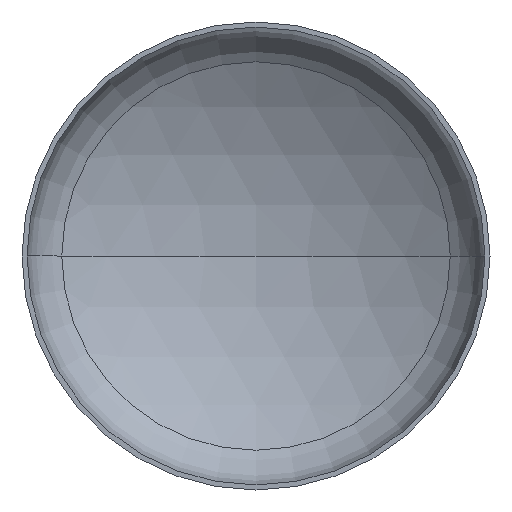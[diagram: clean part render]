
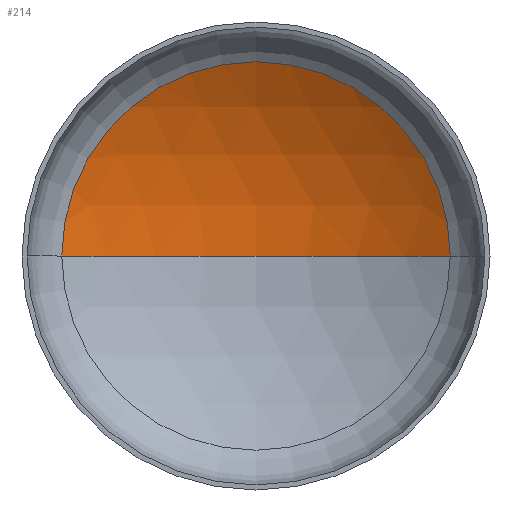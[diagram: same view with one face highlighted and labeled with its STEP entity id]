
A CAD part, front view. The second image highlights one B-rep face of the part: STEP entity #214.
In plain terms, the highlighted spherical face has radius 960 mm.
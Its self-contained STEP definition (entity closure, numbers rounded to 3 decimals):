
#5 = CARTESIAN_POINT ( 'NONE',  ( 0., -622.587, 0. ) ) ;
#9 = EDGE_LOOP ( 'NONE', ( #117, #73, #111 ) ) ;
#13 = CARTESIAN_POINT ( 'NONE',  ( 0., -622.587, 0. ) ) ;
#38 = VERTEX_POINT ( 'NONE', #365 ) ;
#49 = VERTEX_POINT ( 'NONE', #247 ) ;
#53 = AXIS2_PLACEMENT_3D ( 'NONE', #245, #274, #189 ) ;
#63 = AXIS2_PLACEMENT_3D ( 'NONE', #13, #386, #259 ) ;
#67 = AXIS2_PLACEMENT_3D ( 'NONE', #5, #361, #84 ) ;
#73 = ORIENTED_EDGE ( 'NONE', *, *, #140, .T. ) ;
#79 = AXIS2_PLACEMENT_3D ( 'NONE', #198, #201, #280 ) ;
#84 = DIRECTION ( 'NONE',  ( -1., 0., 0. ) ) ;
#111 = ORIENTED_EDGE ( 'NONE', *, *, #139, .T. ) ;
#117 = ORIENTED_EDGE ( 'NONE', *, *, #141, .F. ) ;
#128 = SPHERICAL_SURFACE ( 'NONE', #53, 960. ) ;
#139 = EDGE_CURVE ( 'NONE', #38, #49, #327, .T. ) ;
#140 = EDGE_CURVE ( 'NONE', #164, #38, #270, .T. ) ;
#141 = EDGE_CURVE ( 'NONE', #164, #49, #317, .T. ) ;
#152 = FACE_OUTER_BOUND ( 'NONE', #9, .T. ) ;
#164 = VERTEX_POINT ( 'NONE', #222 ) ;
#189 = DIRECTION ( 'NONE',  ( -1., 0., 0. ) ) ;
#198 = CARTESIAN_POINT ( 'NONE',  ( 0., 198.166, 0. ) ) ;
#201 = DIRECTION ( 'NONE',  ( 0., -1., 0. ) ) ;
#214 = ADVANCED_FACE ( 'NONE', ( #152 ), #128, .F. ) ;
#222 = CARTESIAN_POINT ( 'NONE',  ( 0., 337.413, 0. ) ) ;
#245 = CARTESIAN_POINT ( 'NONE',  ( 0., -622.587, 0. ) ) ;
#247 = CARTESIAN_POINT ( 'NONE',  ( -497.961, 198.166, 0. ) ) ;
#259 = DIRECTION ( 'NONE',  ( 1., 0., 0. ) ) ;
#270 = CIRCLE ( 'NONE', #67, 960. ) ;
#274 = DIRECTION ( 'NONE',  ( 0., 0., -1. ) ) ;
#280 = DIRECTION ( 'NONE',  ( 1., 0., 0. ) ) ;
#317 = CIRCLE ( 'NONE', #63, 960. ) ;
#327 = CIRCLE ( 'NONE', #79, 497.961 ) ;
#361 = DIRECTION ( 'NONE',  ( 0., 0., -1. ) ) ;
#365 = CARTESIAN_POINT ( 'NONE',  ( 497.961, 198.166, 0. ) ) ;
#386 = DIRECTION ( 'NONE',  ( 0., 0., 1. ) ) ;
